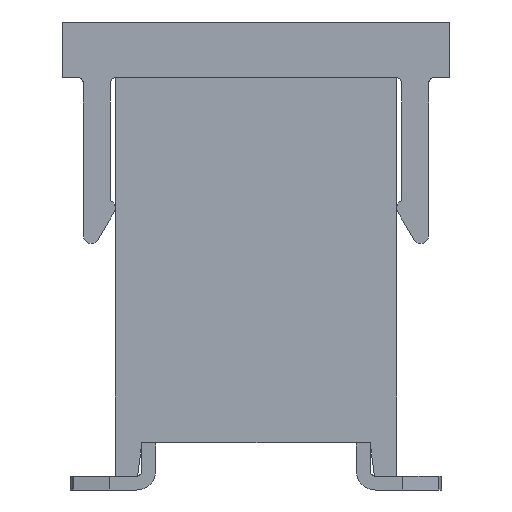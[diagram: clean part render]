
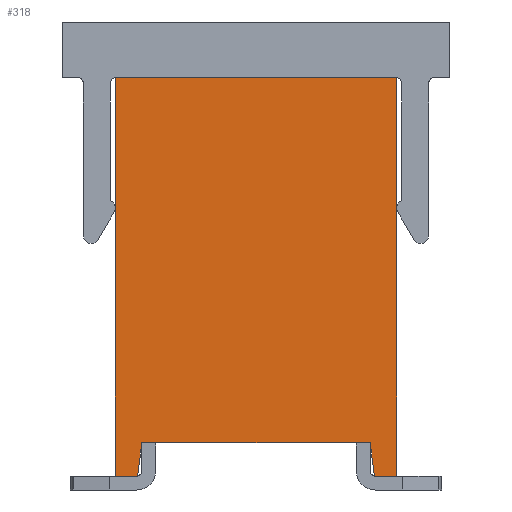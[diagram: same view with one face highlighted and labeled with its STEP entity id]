
A CAD part, left-side view. The second image highlights one B-rep face of the part: STEP entity #318.
In plain terms, the highlighted planar face has unit normal (-1, 0, 0).
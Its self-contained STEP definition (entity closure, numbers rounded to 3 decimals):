
#318=ADVANCED_FACE('',(#1357),#1358,.T.);
#1357=FACE_OUTER_BOUND('',#3496,.T.);
#1358=PLANE('',#3497);
#3496=EDGE_LOOP('',(#5816,#5817,#5818,#5819,#5820,#5821,#5822,#5823));
#3497=AXIS2_PLACEMENT_3D('',#5824,#5825,#5826);
#5816=ORIENTED_EDGE('',*,*,#13850,.F.);
#5817=ORIENTED_EDGE('',*,*,#13815,.F.);
#5818=ORIENTED_EDGE('',*,*,#13851,.F.);
#5819=ORIENTED_EDGE('',*,*,#13849,.F.);
#5820=ORIENTED_EDGE('',*,*,#13852,.T.);
#5821=ORIENTED_EDGE('',*,*,#13771,.T.);
#5822=ORIENTED_EDGE('',*,*,#13853,.F.);
#5823=ORIENTED_EDGE('',*,*,#13840,.F.);
#5824=CARTESIAN_POINT('',(-6.6,-2.54,-3.6));
#5825=DIRECTION('',(-1.0,0.0,0.0));
#5826=DIRECTION('',(0.0,0.0,1.0));
#13771=EDGE_CURVE('',#16557,#16554,#16558,.T.);
#13815=EDGE_CURVE('',#16643,#16645,#16646,.T.);
#13840=EDGE_CURVE('',#16693,#16695,#16696,.T.);
#13849=EDGE_CURVE('',#16707,#16705,#16709,.T.);
#13850=EDGE_CURVE('',#16645,#16693,#16710,.T.);
#13851=EDGE_CURVE('',#16705,#16643,#16711,.T.);
#13852=EDGE_CURVE('',#16707,#16557,#16712,.T.);
#13853=EDGE_CURVE('',#16695,#16554,#16713,.T.);
#16554=VERTEX_POINT('',#20910);
#16557=VERTEX_POINT('',#20914);
#16558=LINE('',#20915,#20916);
#16643=VERTEX_POINT('',#21043);
#16645=VERTEX_POINT('',#21046);
#16646=LINE('',#21047,#21048);
#16693=VERTEX_POINT('',#21118);
#16695=VERTEX_POINT('',#21121);
#16696=LINE('',#21122,#21123);
#16705=VERTEX_POINT('',#21138);
#16707=VERTEX_POINT('',#21141);
#16709=LINE('',#21144,#21145);
#16710=LINE('',#21146,#21147);
#16711=LINE('',#21148,#21149);
#16712=LINE('',#21150,#21151);
#16713=LINE('',#21152,#21153);
#20910=CARTESIAN_POINT('',(-6.6,2.54,3.6));
#20914=CARTESIAN_POINT('',(-6.6,-2.54,3.6));
#20915=CARTESIAN_POINT('',(-6.6,-2.54,3.6));
#20916=VECTOR('',#26935,1000.0);
#21043=CARTESIAN_POINT('',(-6.6,-2.06,-3.0));
#21046=CARTESIAN_POINT('',(-6.6,2.06,-3.0));
#21047=CARTESIAN_POINT('',(-6.6,-2.06,-3.0));
#21048=VECTOR('',#26979,1000.0);
#21118=CARTESIAN_POINT('',(-6.6,2.14,-3.6));
#21121=CARTESIAN_POINT('',(-6.6,2.54,-3.6));
#21122=CARTESIAN_POINT('',(-6.6,-2.54,-3.6));
#21123=VECTOR('',#27004,1000.0);
#21138=CARTESIAN_POINT('',(-6.6,-2.14,-3.6));
#21141=CARTESIAN_POINT('',(-6.6,-2.54,-3.6));
#21144=CARTESIAN_POINT('',(-6.6,-2.54,-3.6));
#21145=VECTOR('',#27013,1000.0);
#21146=CARTESIAN_POINT('',(-6.6,2.06,-3.0));
#21147=VECTOR('',#27014,1000.0);
#21148=CARTESIAN_POINT('',(-6.6,-2.06,-3.0));
#21149=VECTOR('',#27015,1000.0);
#21150=CARTESIAN_POINT('',(-6.6,-2.54,-3.6));
#21151=VECTOR('',#27016,1000.0);
#21152=CARTESIAN_POINT('',(-6.6,2.54,-3.6));
#21153=VECTOR('',#27017,1000.0);
#26935=DIRECTION('',(0.0,1.0,0.0));
#26979=DIRECTION('',(0.0,1.0,0.));
#27004=DIRECTION('',(0.0,1.0,0.0));
#27013=DIRECTION('',(0.0,1.0,0.0));
#27014=DIRECTION('',(0.0,0.132,-0.991));
#27015=DIRECTION('',(0.0,0.132,0.991));
#27016=DIRECTION('',(0.0,0.0,1.0));
#27017=DIRECTION('',(0.0,0.0,1.0));
